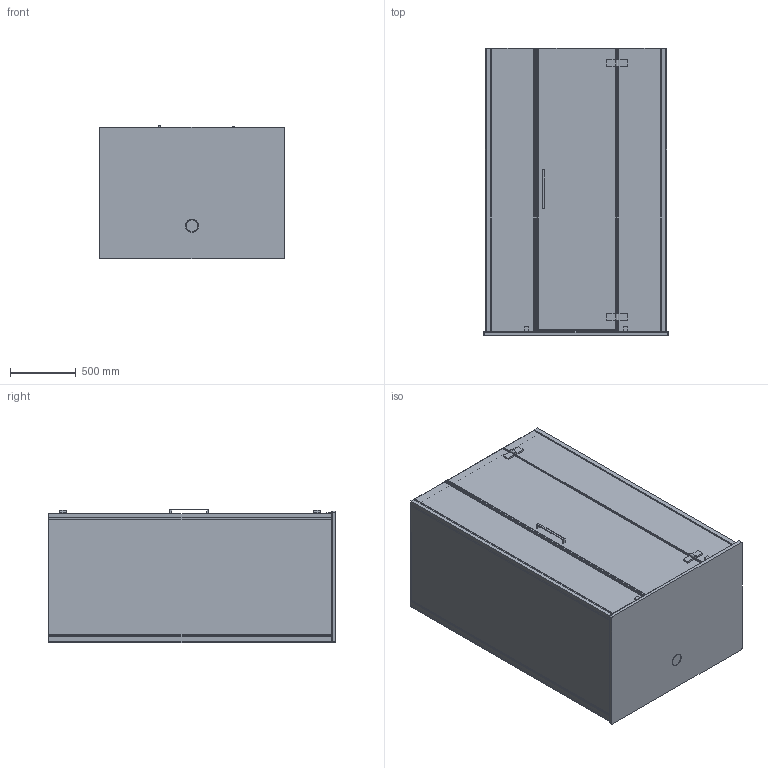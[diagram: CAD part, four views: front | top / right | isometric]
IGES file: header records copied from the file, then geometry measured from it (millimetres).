
Start section: SolidWorks IGES file using analytic representation for surfaces
Global section: file name: D:\Users\M.Szymanski\Desktop\Kabiny\SENSEPEREINCE\03. do przegrania\Senseperience_1400x1000_V_K3D.IGS; native system: SolidWorks 2011; preprocessor: SolidWorks 2011; author: M.Szymanski; date: 181217.152734; units: millimetre
Bounding box: 1400 x 2180 x 1014.55 mm (x, y, z)
Surface area: 30204829.3 mm2 (no closed solid volume)
Topology: 0 solids, 0 shells, 1429 faces, 10479 edges, 13065 vertices
Faces by surface type: bspline 942, revolution 487
